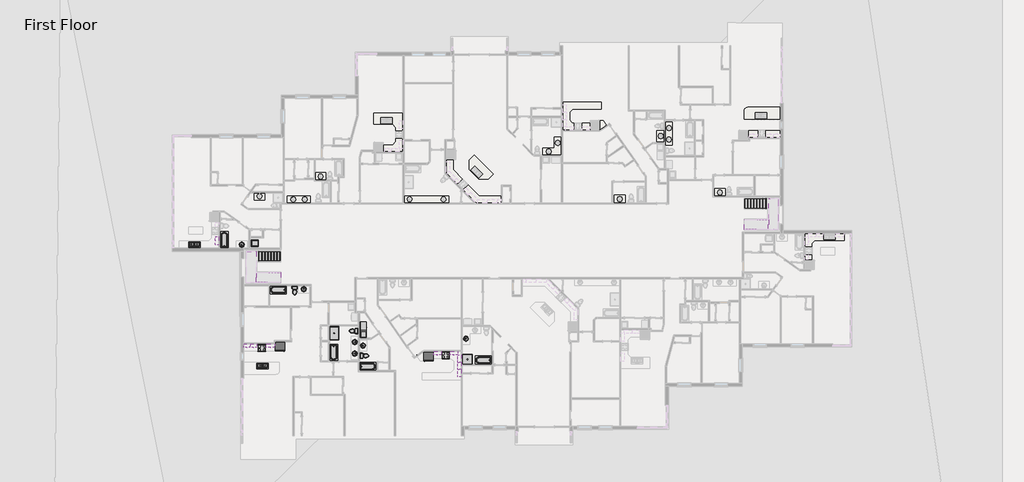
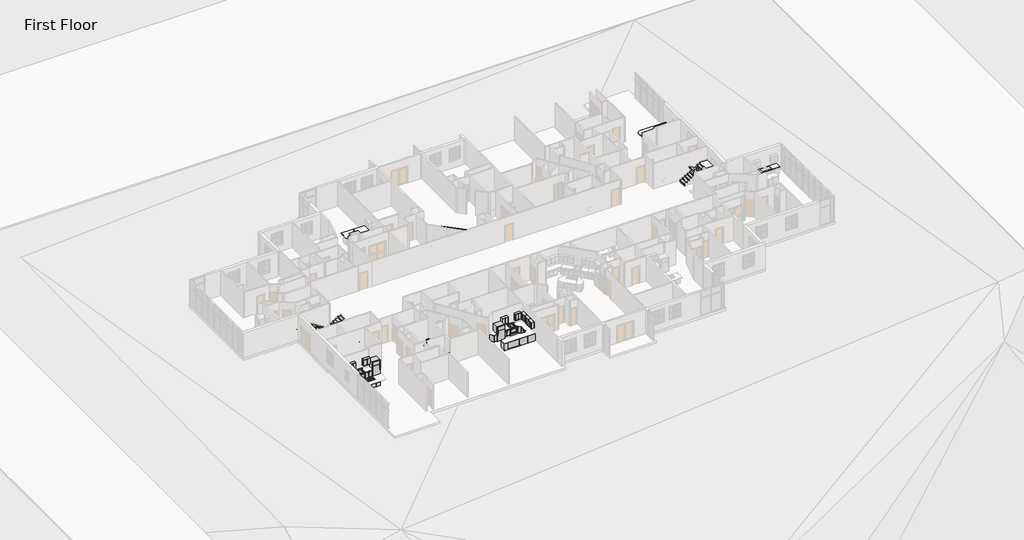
# One storey, part 13 of 17: 42 furniture elements, 20 slabs, 18 flow terminals, 7 proxies, 4 stair flights.
"""IFC4 building model written with IfcOpenShell, lengths in millimetres."""

from ifc_helpers import new_model, si_unit, point, frame, frame_2d, origin, place, context, project, spatial, polyline, circle_curve, trimmed, segment, composite_curve, outline, extrude, transform, mapped, element, save
from components import proxy_6b4a07a9, proxy_fbb4c072, proxy_93150df1, proxy_9109806d, proxy_718fa39f, proxy_f3e01b1d, flow_terminal_54cced83, flow_terminal_5dba0d75, flow_terminal_a53be723, flow_terminal_d49f872f, toilet_domestic_3d_toilet_domestic_3d_f7549cf7, toilet_domestic_3d_toilet_domestic_3d_183bbd19, tub_rectangular_3d_tub_rectangular_3d_72a4d900, tub_rectangular_3d_tub_rectangular_3d_cbc2c449, furniture_0fc2bd2a, furniture_6e8794dd, furniture_07bc9410, furniture_6ace90bf, furniture_338da5bd, furniture_b74d3f52, furniture_7de88fd5, furniture_695a55eb, furniture_b4094f2d, furniture_07c0da44, furniture_bfd559e3, base_cabinet_filler_base_cabinet_filler_dff9ed13, base_cabinet_filler_base_cabinet_filler_01d9e414, base_cabinet_filler_base_cabinet_filler_890d7b95, base_cabinet_filler_base_cabinet_filler_ec835e29, base_cabinet_filler_base_cabinet_filler_783ad0b1, base_cabinet_filler_base_cabinet_filler_ca2a3ea1, furniture_de2c603d, furniture_a8c34398, furniture_09d05a5b, furniture_b1f16c95, furniture_9117db5d, furniture_b34976c1, non_monolithic_landing_e03b7bd7, non_monolithic_landing_4278ca62, stair_flight_912a77d6, stair_flight_db0cfb7a, stair_flight_6cd47184, stair_flight_40993924

model = new_model("IFC4")

# Units and contexts
model_context = context("Model", 3, world=origin())
ifc_project = project(units=[si_unit("LENGTHUNIT", "METRE", prefix="MILLI")], contexts=[model_context])

# Site, building, storey
site = spatial("IfcSite", under=ifc_project)
building = spatial("IfcBuilding", under=site)
storey = spatial("IfcBuildingStorey", under=building, Name="First Floor", Elevation=0.0)

# Proxies
placement = place(None, origin())
proxy_shape = proxy_6b4a07a9(model_context)
element("IfcBuildingElementProxy", 1, Name="Dryer : 30\" x 25\" x 35\"", ObjectType="Dryer : 30\" x 25\" x 35\"", at=placement, inside=storey, context=model_context, shape_type="MappedRepresentation", body=[
    mapped(proxy_shape, transform((18584.1801376, -9524.4003876, 0.0), x_axis=(0.0, 1.0, 0.0), y_axis=(-1.0, 0.0, 0.0), z_axis=(0.0, 0.0, 1.0))),
])
proxy_2_shape = proxy_fbb4c072(model_context)
element("IfcBuildingElementProxy", 2, Name="Range : 30\" x 26\"", ObjectType="Range : 30\" x 26\"", at=placement, inside=storey, context=model_context, shape_type="MappedRepresentation", body=[
    mapped(proxy_2_shape, transform((8484.0058728, -11454.5493344, 0.0), x_axis=(1.0, 0.0, 0.0), y_axis=(0.0, 1.0, 0.0), z_axis=(0.0, 0.0, 1.0))),
])
element("IfcBuildingElementProxy", 3, Name="Range : 30\" x 26\"", ObjectType="Range : 30\" x 26\"", at=placement, inside=storey, context=model_context, shape_type="MappedRepresentation", body=[
    mapped(proxy_2_shape, transform((25568.0760465, -12129.3236347, 0.0), x_axis=(1.0, 0.0, 0.0), y_axis=(0.0, 1.0, 0.0), z_axis=(0.0, 0.0, 1.0))),
])
proxy_3_shape = proxy_93150df1(model_context)
element("IfcBuildingElementProxy", 4, Name="Refrigerator : 35\" x 32\" LH", ObjectType="Refrigerator : 35\" x 32\" LH", at=placement, inside=storey, context=model_context, shape_type="MappedRepresentation", body=[
    mapped(proxy_3_shape, transform((24373.0696169, -11939.5714882, 0.0), x_axis=(1.0, 0.0, 0.0), y_axis=(0.0, 1.0, 0.0), z_axis=(0.0, 0.0, 1.0))),
])
proxy_4_shape = proxy_9109806d(model_context)
element("IfcBuildingElementProxy", 5, Name="Refrigerator : 35\" x 32\" RH", ObjectType="Refrigerator : 35\" x 32\" RH", at=placement, inside=storey, context=model_context, shape_type="MappedRepresentation", body=[
    mapped(proxy_4_shape, transform((10565.2183728, -10998.1775997, 0.0), x_axis=(1.0, 0.0, 0.0), y_axis=(0.0, 1.0, 0.0), z_axis=(0.0, 0.0, 1.0))),
])
proxy_5_shape = proxy_718fa39f(model_context)
element("IfcBuildingElementProxy", 6, Name="Washer : 27\" x 25\" x 35\"", ObjectType="Washer : 27\" x 25\" x 35\"", at=placement, inside=storey, context=model_context, shape_type="MappedRepresentation", body=[
    mapped(proxy_5_shape, transform((18548.6686985, -10291.5635078, 0.0), x_axis=(0.0, 1.0, 0.0), y_axis=(-1.0, 0.0, 0.0), z_axis=(0.0, 0.0, 1.0))),
])
proxy_6_shape = proxy_f3e01b1d(model_context)
element("IfcBuildingElementProxy", 7, Name="Washer_Dryer_Combo : 24\"", ObjectType="Washer_Dryer_Combo : 24\"", at=placement, inside=storey, context=model_context, shape_type="MappedRepresentation", body=[
    mapped(proxy_6_shape, transform((7781.763642, -1399.896226, 0.0), x_axis=(0.0, 1.0, 0.0), y_axis=(-1.0, 0.0, 0.0), z_axis=(0.0, 0.0, 1.0))),
])

# Flow terminals
flow_terminal_shape = flow_terminal_54cced83(model_context)
element("IfcFlowTerminal", 8, ObjectType="Shower Base-3D : 36\" x 36\"", at=placement, inside=storey, context=model_context, shape_type="MappedRepresentation", body=[
    mapped(flow_terminal_shape, transform((27964.2865862, -12199.1736347, 0.0), x_axis=(-1.0, 0.0, 0.0), y_axis=(0.0, -1.0, 0.0), z_axis=(0.0, 0.0, 1.0))),
])
flow_terminal_2_shape = flow_terminal_5dba0d75(model_context)
element("IfcFlowTerminal", 9, ObjectType="Shower Base-3D : 48\" x 34\"", at=placement, inside=storey, context=model_context, shape_type="MappedRepresentation", body=[
    mapped(flow_terminal_2_shape, transform((15583.4691338, -9765.9826248, 0.0), x_axis=(0.0, -1.0, 0.0), y_axis=(1.0, 0.0, 0.0), z_axis=(0.0, 0.0, 1.0))),
])
flow_terminal_3_shape = flow_terminal_a53be723(model_context)
element("IfcFlowTerminal", 10, ObjectType="Sink Kitchen-Double : 42\" x 21\"", at=placement, inside=storey, context=model_context, shape_type="MappedRepresentation", body=[
    mapped(flow_terminal_3_shape, transform((2610.3896329, -1539.4234679, 0.0), x_axis=(-1.0, 0.0, 0.0), y_axis=(0.0, -1.0, 0.0), z_axis=(0.0, 0.0, 1.0))),
])
element("IfcFlowTerminal", 11, ObjectType="Sink Kitchen-Double : 42\" x 21\"", at=placement, inside=storey, context=model_context, shape_type="MappedRepresentation", body=[
    mapped(flow_terminal_3_shape, transform((8952.0802897, -12819.6612346, 0.0), x_axis=(-1.0, 0.0, 0.0), y_axis=(0.0, -1.0, 0.0), z_axis=(0.0, 0.0, 1.0))),
])
flow_terminal_4_shape = flow_terminal_d49f872f(model_context)
element("IfcFlowTerminal", 12, ObjectType="Sink Vanity-Round : 19\" x 19\"", at=placement, inside=storey, context=model_context, shape_type="MappedRepresentation", body=[
    mapped(flow_terminal_4_shape, transform((7095.9779114, -1446.5547276, 0.0), x_axis=(-1.0, 0.0, 0.0), y_axis=(0.0, -1.0, 0.0), z_axis=(0.0, 0.0, 1.0))),
])
element("IfcFlowTerminal", 13, ObjectType="Sink Vanity-Round : 19\" x 19\"", at=placement, inside=storey, context=model_context, shape_type="MappedRepresentation", body=[
    mapped(flow_terminal_4_shape, transform((12671.2282401, -5751.7512482, 0.0), x_axis=(1.0, 0.0, 0.0), y_axis=(0.0, 1.0, 0.0), z_axis=(0.0, 0.0, 1.0))),
])
element("IfcFlowTerminal", 14, ObjectType="Sink Vanity-Round : 19\" x 19\"", at=placement, inside=storey, context=model_context, shape_type="MappedRepresentation", body=[
    mapped(flow_terminal_4_shape, transform((17420.7936513, -10494.2975939, 0.0), x_axis=(0.0, -1.0, 0.0), y_axis=(1.0, 0.0, 0.0), z_axis=(0.0, 0.0, 1.0))),
])
element("IfcFlowTerminal", 15, ObjectType="Sink Vanity-Round : 19\" x 19\"", at=placement, inside=storey, context=model_context, shape_type="MappedRepresentation", body=[
    mapped(flow_terminal_4_shape, transform((17409.016646, -11561.0975939, 0.0), x_axis=(0.0, -1.0, 0.0), y_axis=(1.0, 0.0, 0.0), z_axis=(0.0, 0.0, 1.0))),
])
element("IfcFlowTerminal", 16, ObjectType="Sink Vanity-Round : 19\" x 19\"", at=placement, inside=storey, context=model_context, shape_type="MappedRepresentation", body=[
    mapped(flow_terminal_4_shape, transform((27911.2708925, -10375.2194838, 0.0), x_axis=(0.001247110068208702, 0.9999992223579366, 0.0), y_axis=(-0.9999992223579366, 0.001247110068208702, 0.0), z_axis=(0.0, 0.0, 1.0))),
])
element("IfcFlowTerminal", 17, ObjectType="Sink Vanity-Round : 19\" x 19\"", at=placement, inside=storey, context=model_context, shape_type="MappedRepresentation", body=[
    mapped(flow_terminal_4_shape, transform((18352.0332752, -11016.4921873, 0.0), x_axis=(0.0, 1.0, 0.0), y_axis=(-1.0, 0.0, 0.0), z_axis=(0.0, 0.0, 1.0))),
])
toilet_domestic_3d_toilet_domestic_3d_shape = toilet_domestic_3d_toilet_domestic_3d_f7549cf7(model_context)
toilet_domestic_3d_toilet_domestic_3d_2_shape = toilet_domestic_3d_toilet_domestic_3d_183bbd19(model_context)
element("IfcFlowTerminal", 18, ObjectType="Toilet-Domestic-3D : Toilet-Domestic-3D", at=placement, inside=storey, context=model_context, shape_type="MappedRepresentation", body=[
    mapped(toilet_domestic_3d_toilet_domestic_3d_shape, transform((11916.3561509, -5905.1826248, 0.0), x_axis=(1.0, 0.0, 0.0), y_axis=(0.0, 1.0, 0.0), z_axis=(0.0, 0.0, 1.0))),
    mapped(toilet_domestic_3d_toilet_domestic_3d_2_shape, transform((11916.3561509, -5905.1826248, 0.0), x_axis=(1.0, 0.0, 0.0), y_axis=(0.0, 1.0, 0.0), z_axis=(0.0, 0.0, 1.0))),
])
element("IfcFlowTerminal", 19, ObjectType="Toilet-Domestic-3D : Toilet-Domestic-3D", at=placement, inside=storey, context=model_context, shape_type="MappedRepresentation", body=[
    mapped(toilet_domestic_3d_toilet_domestic_3d_shape, transform((17301.7543863, -9562.7826248, 0.0), x_axis=(0.0, -1.0, 0.0), y_axis=(1.0, 0.0, 0.0), z_axis=(0.0, 0.0, 1.0))),
    mapped(toilet_domestic_3d_toilet_domestic_3d_2_shape, transform((17301.7543863, -9562.7826248, 0.0), x_axis=(0.0, -1.0, 0.0), y_axis=(1.0, 0.0, 0.0), z_axis=(0.0, 0.0, 1.0))),
])
element("IfcFlowTerminal", 20, ObjectType="Toilet-Domestic-3D : Toilet-Domestic-3D", at=placement, inside=storey, context=model_context, shape_type="MappedRepresentation", body=[
    mapped(toilet_domestic_3d_toilet_domestic_3d_shape, transform((18495.5543863, -11861.2719726, 0.0), x_axis=(0.0, 1.0, 0.0), y_axis=(-1.0, 0.0, 0.0), z_axis=(0.0, 0.0, 1.0))),
    mapped(toilet_domestic_3d_toilet_domestic_3d_2_shape, transform((18495.5543863, -11861.2719726, 0.0), x_axis=(0.0, 1.0, 0.0), y_axis=(-1.0, 0.0, 0.0), z_axis=(0.0, 0.0, 1.0))),
])
tub_rectangular_3d_tub_rectangular_3d_shape = tub_rectangular_3d_tub_rectangular_3d_72a4d900(model_context)
element("IfcFlowTerminal", 21, ObjectType="Tub-Rectangular-3D : Tub-Rectangular-3D", at=placement, inside=storey, context=model_context, shape_type="MappedRepresentation", body=[
    mapped(tub_rectangular_3d_tub_rectangular_3d_shape, transform((19051.8674743, -13293.3204597, 0.0), x_axis=(1.0, 0.0, 0.0), y_axis=(0.0, 1.0, 0.0), z_axis=(0.0, 0.0, 1.0))),
])
element("IfcFlowTerminal", 22, ObjectType="Tub-Rectangular-3D : Tub-Rectangular-3D", at=placement, inside=storey, context=model_context, shape_type="MappedRepresentation", body=[
    mapped(tub_rectangular_3d_tub_rectangular_3d_shape, transform((15100.67709, -11904.7523031, 0.0), x_axis=(0.0, -1.0, 0.0), y_axis=(1.0, 0.0, 0.0), z_axis=(0.0, 0.0, 1.0))),
])
element("IfcFlowTerminal", 23, ObjectType="Tub-Rectangular-3D : Tub-Rectangular-3D", at=placement, inside=storey, context=model_context, shape_type="MappedRepresentation", body=[
    mapped(tub_rectangular_3d_tub_rectangular_3d_shape, transform((10041.086734, -5294.5871067, 0.0), x_axis=(-1.0, 0.0, 0.0), y_axis=(0.0, -1.0, 0.0), z_axis=(0.0, 0.0, 1.0))),
])
tub_rectangular_3d_tub_rectangular_3d_2_shape = tub_rectangular_3d_tub_rectangular_3d_cbc2c449(model_context)
element("IfcFlowTerminal", 24, ObjectType="Tub-Rectangular-3D : Tub-Rectangular-3D", at=placement, inside=storey, context=model_context, shape_type="MappedRepresentation", body=[
    mapped(tub_rectangular_3d_tub_rectangular_3d_2_shape, transform((4937.8503923, -742.3159003, 0.0), x_axis=(0.0, 1.0, 0.0), y_axis=(-1.0, 0.0, 0.0), z_axis=(0.0, 0.0, 1.0))),
])
element("IfcFlowTerminal", 25, ObjectType="Tub-Rectangular-3D : Tub-Rectangular-3D", at=placement, inside=storey, context=model_context, shape_type="MappedRepresentation", body=[
    mapped(tub_rectangular_3d_tub_rectangular_3d_2_shape, transform((29107.1010669, -12707.1736347, 0.0), x_axis=(-1.0, 0.0, 0.0), y_axis=(0.0, -1.0, 0.0), z_axis=(0.0, 0.0, 1.0))),
])

# Furniture
furniture_shape = furniture_0fc2bd2a(model_context)
element("IfcFurniture", 26, ObjectType="Base Cabinet-Single Door & Drawer : 15\"'", at=placement, inside=storey, context=model_context, shape_type="MappedRepresentation", body=[
    mapped(furniture_shape, transform((7393.028754, -13101.4066357, 0.0), x_axis=(-1.0, 0.0, 0.0), y_axis=(0.0, -1.0, 0.0), z_axis=(0.0, 0.0, 1.0))),
])
furniture_2_shape = furniture_6e8794dd(model_context)
element("IfcFurniture", 27, ObjectType="Base Cabinet-Single Door & Drawer : 12\"", at=placement, inside=storey, context=model_context, shape_type="MappedRepresentation", body=[
    mapped(furniture_2_shape, transform((4880.7003923, -765.2085211, 0.0), x_axis=(0.0, -1.0, 0.0), y_axis=(1.0, 0.0, 0.0), z_axis=(0.0, 0.0, 1.0))),
])
furniture_3_shape = furniture_07bc9410(model_context)
element("IfcFurniture", 28, ObjectType="Base Cabinet-Single Door & Drawer : 18\"", at=placement, inside=storey, context=model_context, shape_type="MappedRepresentation", body=[
    mapped(furniture_3_shape, transform((7423.2435778, -10772.1368662, 0.0), x_axis=(-1.0, 0.0, 0.0), y_axis=(0.0, -1.0, 0.0), z_axis=(0.0, 0.0, 1.0))),
])
furniture_4_shape = furniture_6ace90bf(model_context)
element("IfcFurniture", 29, ObjectType="Base Cabinet-Single Door & Drawer : 18\"", at=placement, inside=storey, context=model_context, shape_type="MappedRepresentation", body=[
    mapped(furniture_4_shape, transform((9793.328754, -13101.4066357, 0.0), x_axis=(-1.0, 0.0, 0.0), y_axis=(0.0, -1.0, 0.0), z_axis=(0.0, 0.0, 1.0))),
])
element("IfcFurniture", 30, ObjectType="Base Cabinet-Single Door & Drawer : 18\"", at=placement, inside=storey, context=model_context, shape_type="MappedRepresentation", body=[
    mapped(furniture_4_shape, transform((24038.1263728, -14082.7941728, 0.0), x_axis=(-1.0, 0.0, 0.0), y_axis=(0.0, -1.0, 0.0), z_axis=(0.0, 0.0, 1.0))),
])
furniture_5_shape = furniture_338da5bd(model_context)
element("IfcFurniture", 31, ObjectType="Base Cabinet-Double Door & 2 Drawer : 30\"", at=placement, inside=storey, context=model_context, shape_type="MappedRepresentation", body=[
    mapped(furniture_5_shape, transform((7964.528754, -13101.4066357, 0.0), x_axis=(-1.0, 0.0, 0.0), y_axis=(0.0, -1.0, 0.0), z_axis=(0.0, 0.0, 1.0))),
])
element("IfcFurniture", 32, ObjectType="Base Cabinet-Double Door & 2 Drawer : 30\"", at=placement, inside=storey, context=model_context, shape_type="MappedRepresentation", body=[
    mapped(furniture_5_shape, transform((27373.7365862, -12755.9564679, 0.0), x_axis=(0.0, -1.0, 0.0), y_axis=(1.0, 0.0, 0.0), z_axis=(0.0, 0.0, 1.0))),
])
element("IfcFurniture", 33, ObjectType="Base Cabinet-Double Door & 2 Drawer : 30\"", at=placement, inside=storey, context=model_context, shape_type="MappedRepresentation", body=[
    mapped(furniture_5_shape, transform((25173.481912, -11468.9236347, 0.0), x_axis=(1.0, 0.0, 0.0), y_axis=(0.0, 1.0, 0.0), z_axis=(0.0, 0.0, 1.0))),
])
furniture_6_shape = furniture_b74d3f52(model_context)
element("IfcFurniture", 34, ObjectType="Base Cabinet-Double Door & 2 Drawer : 33\"", at=placement, inside=storey, context=model_context, shape_type="MappedRepresentation", body=[
    mapped(furniture_6_shape, transform((8083.6435778, -10772.1368662, 0.0), x_axis=(-1.0, 0.0, 0.0), y_axis=(0.0, -1.0, 0.0), z_axis=(0.0, 0.0, 1.0))),
])
furniture_7_shape = furniture_7de88fd5(model_context)
element("IfcFurniture", 35, ObjectType="Base Cabinet-Double Door & 2 Drawer : 33\"", at=placement, inside=storey, context=model_context, shape_type="MappedRepresentation", body=[
    mapped(furniture_7_shape, transform((9646.3681679, -10772.1368662, 0.0), x_axis=(1.0, 0.0, 0.0), y_axis=(0.0, 1.0, 0.0), z_axis=(0.0, 0.0, 1.0))),
])
furniture_8_shape = furniture_695a55eb(model_context)
element("IfcFurniture", 36, ObjectType="Base Cabinet-Double Door & 2 Drawer : 36\"", at=placement, inside=storey, context=model_context, shape_type="MappedRepresentation", body=[
    mapped(furniture_8_shape, transform((1661.5626874, -1846.568869, 0.0), x_axis=(1.0, 0.0, 0.0), y_axis=(0.0, 1.0, 0.0), z_axis=(0.0, 0.0, 1.0))),
])
element("IfcFurniture", 37, ObjectType="Base Cabinet-Double Door & 2 Drawer : 36\"", at=placement, inside=storey, context=model_context, shape_type="MappedRepresentation", body=[
    mapped(furniture_8_shape, transform((2575.9626874, -1846.568869, 0.0), x_axis=(1.0, 0.0, 0.0), y_axis=(0.0, 1.0, 0.0), z_axis=(0.0, 0.0, 1.0))),
])
element("IfcFurniture", 38, ObjectType="Base Cabinet-Double Door & 2 Drawer : 36\"", at=placement, inside=storey, context=model_context, shape_type="MappedRepresentation", body=[
    mapped(furniture_8_shape, transform((3490.3626874, -1846.568869, 0.0), x_axis=(1.0, 0.0, 0.0), y_axis=(0.0, 1.0, 0.0), z_axis=(0.0, 0.0, 1.0))),
])
furniture_9_shape = furniture_b4094f2d(model_context)
element("IfcFurniture", 39, ObjectType="Base Cabinet-Double Door & 2 Drawer : 39\"", at=placement, inside=storey, context=model_context, shape_type="MappedRepresentation", body=[
    mapped(furniture_9_shape, transform((25982.7742911, -14082.7941728, 0.0), x_axis=(-1.0, 0.0, 0.0), y_axis=(0.0, -1.0, 0.0), z_axis=(0.0, 0.0, 1.0))),
])
furniture_10_shape = furniture_07c0da44(model_context)
element("IfcFurniture", 40, ObjectType="Base Cabinet-Double Door & 2 Drawer : 48\"", at=placement, inside=storey, context=model_context, shape_type="MappedRepresentation", body=[
    mapped(furniture_10_shape, transform((8955.128754, -13101.4066357, 0.0), x_axis=(-1.0, 0.0, 0.0), y_axis=(0.0, -1.0, 0.0), z_axis=(0.0, 0.0, 1.0))),
])
element("IfcFurniture", 41, ObjectType="Base Cabinet-Double Door & 2 Drawer : 48\"", at=placement, inside=storey, context=model_context, shape_type="MappedRepresentation", body=[
    mapped(furniture_10_shape, transform((24876.3263728, -14082.7941728, 0.0), x_axis=(-1.0, 0.0, 0.0), y_axis=(0.0, -1.0, 0.0), z_axis=(0.0, 0.0, 1.0))),
])
furniture_11_shape = furniture_bfd559e3(model_context)
element("IfcFurniture", 42, ObjectType="Base Cabinet-Corner Unit-Angled : 36\"", at=placement, inside=storey, context=model_context, shape_type="MappedRepresentation", body=[
    mapped(furniture_11_shape, transform((4880.7003923, -1319.8311641, 0.0), x_axis=(0.0, -1.0, 0.0), y_axis=(1.0, 0.0, 0.0), z_axis=(0.0, 0.0, 1.0))),
])
element("IfcFurniture", 43, ObjectType="Base Cabinet-Corner Unit-Angled : 36\"", at=placement, inside=storey, context=model_context, shape_type="MappedRepresentation", body=[
    mapped(furniture_11_shape, transform((27373.7365862, -13556.0564679, 0.0), x_axis=(0.0, -1.0, 0.0), y_axis=(1.0, 0.0, 0.0), z_axis=(0.0, 0.0, 1.0))),
])
element("IfcFurniture", 44, ObjectType="Base Cabinet-Corner Unit-Angled : 36\"", at=placement, inside=storey, context=model_context, shape_type="MappedRepresentation", body=[
    mapped(furniture_11_shape, transform((26846.9988812, -11468.9236347, 0.0), x_axis=(1.0, 0.0, 0.0), y_axis=(0.0, 1.0, 0.0), z_axis=(0.0, 0.0, 1.0))),
])
base_cabinet_filler_base_cabinet_filler_shape = base_cabinet_filler_base_cabinet_filler_dff9ed13(model_context)
element("IfcFurniture", 45, ObjectType="Base Cabinet-Filler : Base Cabinet-Filler", at=placement, inside=storey, context=model_context, shape_type="MappedRepresentation", body=[
    mapped(base_cabinet_filler_base_cabinet_filler_shape, transform((7620.7181679, -10772.1368662, 0.0), x_axis=(1.0, 0.0, 0.0), y_axis=(0.0, 1.0, 0.0), z_axis=(0.0, 0.0, 1.0))),
])
element("IfcFurniture", 46, ObjectType="Base Cabinet-Filler : Base Cabinet-Filler", at=placement, inside=storey, context=model_context, shape_type="MappedRepresentation", body=[
    mapped(base_cabinet_filler_base_cabinet_filler_shape, transform((27373.7365862, -13143.3064679, 0.0), x_axis=(0.0, -1.0, 0.0), y_axis=(1.0, 0.0, 0.0), z_axis=(0.0, 0.0, 1.0))),
])
base_cabinet_filler_base_cabinet_filler_2_shape = base_cabinet_filler_base_cabinet_filler_01d9e414(model_context)
element("IfcFurniture", 47, ObjectType="Base Cabinet-Filler : Base Cabinet-Filler", at=placement, inside=storey, context=model_context, shape_type="MappedRepresentation", body=[
    mapped(base_cabinet_filler_base_cabinet_filler_2_shape, transform((10086.8994179, -10772.1368662, 0.0), x_axis=(1.0, 0.0, 0.0), y_axis=(0.0, 1.0, 0.0), z_axis=(0.0, 0.0, 1.0))),
])
base_cabinet_filler_base_cabinet_filler_3_shape = base_cabinet_filler_base_cabinet_filler_890d7b95(model_context)
element("IfcFurniture", 48, ObjectType="Base Cabinet-Filler : Base Cabinet-Filler", at=placement, inside=storey, context=model_context, shape_type="MappedRepresentation", body=[
    mapped(base_cabinet_filler_base_cabinet_filler_3_shape, transform((26375.9686114, -11468.9236347, 0.0), x_axis=(1.0, 0.0, 0.0), y_axis=(0.0, 1.0, 0.0), z_axis=(0.0, 0.0, 1.0))),
])
base_cabinet_filler_base_cabinet_filler_4_shape = base_cabinet_filler_base_cabinet_filler_ec835e29(model_context)
element("IfcFurniture", 49, ObjectType="Base Cabinet-Filler : Base Cabinet-Filler", at=placement, inside=storey, context=model_context, shape_type="MappedRepresentation", body=[
    mapped(base_cabinet_filler_base_cabinet_filler_4_shape, transform((27373.7365862, -12369.7711988, 0.0), x_axis=(0.0, -1.0, 0.0), y_axis=(1.0, 0.0, 0.0), z_axis=(0.0, 0.0, 1.0))),
])
base_cabinet_filler_base_cabinet_filler_5_shape = base_cabinet_filler_base_cabinet_filler_783ad0b1(model_context)
element("IfcFurniture", 50, ObjectType="Base Cabinet-Filler : Base Cabinet-Filler", at=placement, inside=storey, context=model_context, shape_type="MappedRepresentation", body=[
    mapped(base_cabinet_filler_base_cabinet_filler_5_shape, transform((23755.8937619, -11708.3436972, 0.0), x_axis=(1.0, 0.0, 0.0), y_axis=(0.0, 1.0, 0.0), z_axis=(0.0, 0.0, 1.0))),
])
base_cabinet_filler_base_cabinet_filler_6_shape = base_cabinet_filler_base_cabinet_filler_ca2a3ea1(model_context)
element("IfcFurniture", 51, ObjectType="Base Cabinet-Filler : Base Cabinet-Filler", at=placement, inside=storey, context=model_context, shape_type="MappedRepresentation", body=[
    mapped(base_cabinet_filler_base_cabinet_filler_6_shape, transform((23926.7430816, -11693.9911948, 0.0), x_axis=(0.5735764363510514, -0.8191520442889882, 0.0), y_axis=(0.8191520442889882, 0.5735764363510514, 0.0), z_axis=(0.0, 0.0, 1.0))),
])
furniture_12_shape = furniture_de2c603d(model_context)
element("IfcFurniture", 52, ObjectType="Upper Cabinet-Double Door-Wall : 24\"", at=placement, inside=storey, context=model_context, shape_type="MappedRepresentation", body=[
    mapped(furniture_12_shape, transform((7516.0292787, -10717.9493344, 0.0), x_axis=(-1.0, 0.0, 0.0), y_axis=(0.0, -1.0, 0.0), z_axis=(0.0, 0.0, 1.0))),
])
element("IfcFurniture", 53, ObjectType="Upper Cabinet-Double Door-Wall : 24\"", at=placement, inside=storey, context=model_context, shape_type="MappedRepresentation", body=[
    mapped(furniture_12_shape, transform((8125.6292787, -10717.9493344, 0.0), x_axis=(-1.0, 0.0, 0.0), y_axis=(0.0, -1.0, 0.0), z_axis=(0.0, 0.0, 1.0))),
])
furniture_13_shape = furniture_a8c34398(model_context)
element("IfcFurniture", 54, ObjectType="Upper Cabinet-Double Door-Wall : 27\"", at=placement, inside=storey, context=model_context, shape_type="MappedRepresentation", body=[
    mapped(furniture_13_shape, transform((25225.457749, -11411.7736347, 0.0), x_axis=(-1.0, 0.0, 0.0), y_axis=(0.0, -1.0, 0.0), z_axis=(0.0, 0.0, 1.0))),
])
element("IfcFurniture", 55, ObjectType="Upper Cabinet-Double Door-Wall : 27\"", at=placement, inside=storey, context=model_context, shape_type="MappedRepresentation", body=[
    mapped(furniture_13_shape, transform((26755.807749, -11411.7736347, 0.0), x_axis=(-1.0, 0.0, 0.0), y_axis=(0.0, -1.0, 0.0), z_axis=(0.0, 0.0, 1.0))),
])
element("IfcFurniture", 56, ObjectType="Upper Cabinet-Double Door-Wall : 27\"", at=placement, inside=storey, context=model_context, shape_type="MappedRepresentation", body=[
    mapped(furniture_13_shape, transform((27430.8865862, -12146.3947975, 0.0), x_axis=(0.0, 1.0, 0.0), y_axis=(-1.0, 0.0, 0.0), z_axis=(0.0, 0.0, 1.0))),
])
element("IfcFurniture", 57, ObjectType="Upper Cabinet-Double Door-Wall : 27\"", at=placement, inside=storey, context=model_context, shape_type="MappedRepresentation", body=[
    mapped(furniture_13_shape, transform((27430.8865862, -12832.1947975, 0.0), x_axis=(0.0, 1.0, 0.0), y_axis=(-1.0, 0.0, 0.0), z_axis=(0.0, 0.0, 1.0))),
])
furniture_14_shape = furniture_09d05a5b(model_context)
element("IfcFurniture", 58, ObjectType="Upper Cabinet-Double Door-Wall : 27\"", at=placement, inside=storey, context=model_context, shape_type="MappedRepresentation", body=[
    mapped(furniture_14_shape, transform((27430.8865862, -13458.4524719, 0.0), x_axis=(0.0, -1.0, 0.0), y_axis=(1.0, 0.0, 0.0), z_axis=(0.0, 0.0, 1.0))),
])
furniture_15_shape = furniture_b1f16c95(model_context)
element("IfcFurniture", 59, ObjectType="Upper Cabinet-Double Door-Wall : 30\"", at=placement, inside=storey, context=model_context, shape_type="MappedRepresentation", body=[
    mapped(furniture_15_shape, transform((4937.8503923, -1190.5400318, 0.0), x_axis=(0.0, 1.0, 0.0), y_axis=(-1.0, 0.0, 0.0), z_axis=(0.0, 0.0, 1.0))),
])
element("IfcFurniture", 60, ObjectType="Upper Cabinet-Double Door-Wall : 30\"", at=placement, inside=storey, context=model_context, shape_type="MappedRepresentation", body=[
    mapped(furniture_15_shape, transform((9707.5770356, -10717.9493344, 0.0), x_axis=(-1.0, 0.0, 0.0), y_axis=(0.0, -1.0, 0.0), z_axis=(0.0, 0.0, 1.0))),
])
furniture_16_shape = furniture_9117db5d(model_context)
element("IfcFurniture", 61, ObjectType="Vanity Cabinet-Double Door Sink Unit : 39\"", at=placement, inside=storey, context=model_context, shape_type="MappedRepresentation", body=[
    mapped(furniture_16_shape, transform((7018.0638758, -1846.568869, 0.0), x_axis=(-1.0, 0.0, 0.0), y_axis=(0.0, -1.0, 0.0), z_axis=(0.0, 0.0, 1.0))),
])
element("IfcFurniture", 62, ObjectType="Vanity Cabinet-Double Door Sink Unit : 39\"", at=placement, inside=storey, context=model_context, shape_type="MappedRepresentation", body=[
    mapped(furniture_16_shape, transform((12749.1422757, -5351.7371067, 0.0), x_axis=(1.0, 0.0, 0.0), y_axis=(0.0, 1.0, 0.0), z_axis=(0.0, 0.0, 1.0))),
])
element("IfcFurniture", 63, ObjectType="Vanity Cabinet-Double Door Sink Unit : 39\"", at=placement, inside=storey, context=model_context, shape_type="MappedRepresentation", body=[
    mapped(furniture_16_shape, transform((17952.0191338, -10938.5781517, 0.0), x_axis=(0.0, 1.0, 0.0), y_axis=(-1.0, 0.0, 0.0), z_axis=(0.0, 0.0, 1.0))),
])
furniture_17_shape = furniture_b34976c1(model_context)
element("IfcFurniture", 64, ObjectType="Vanity Cabinet-Double Door Sink Unit : 42\"", at=placement, inside=storey, context=model_context, shape_type="MappedRepresentation", body=[
    mapped(furniture_17_shape, transform((17818.6691338, -11639.0116295, 0.0), x_axis=(0.0, -1.0, 0.0), y_axis=(1.0, 0.0, 0.0), z_axis=(0.0, 0.0, 1.0))),
])
element("IfcFurniture", 65, ObjectType="Vanity Cabinet-Double Door Sink Unit : 42\"", at=placement, inside=storey, context=model_context, shape_type="MappedRepresentation", body=[
    mapped(furniture_17_shape, transform((17818.6691338, -10572.2116295, 0.0), x_axis=(0.0, -1.0, 0.0), y_axis=(1.0, 0.0, 0.0), z_axis=(0.0, 0.0, 1.0))),
])
element("IfcFurniture", 66, ObjectType="Vanity Cabinet-Double Door Sink Unit : 42\"", at=placement, inside=storey, context=model_context, shape_type="MappedRepresentation", body=[
    mapped(furniture_17_shape, transform((28649.2008168, -9152.0789569, 0.0), x_axis=(0.9999968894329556, -0.0024942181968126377, 0.0), y_axis=(0.0024942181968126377, 0.9999968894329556, 0.0), z_axis=(0.0, 0.0, 1.0))),
])
element("IfcFurniture", 67, ObjectType="Vanity Cabinet-Double Door Sink Unit : 42\"", at=placement, inside=storey, context=model_context, shape_type="MappedRepresentation", body=[
    mapped(furniture_17_shape, transform((27513.4928868, -10296.8093142, 0.0), x_axis=(0.0012471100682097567, 0.9999992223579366, 0.0), y_axis=(-0.9999992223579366, 0.0012471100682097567, 0.0), z_axis=(0.0, 0.0, 1.0))),
])

# Slabs
element("IfcSlab", 68, ObjectType="Marble", at=placement, inside=storey, context=model_context, shape_type="SweptSolid", body=[
    extrude(outline(composite_curve([segment(polyline([(57019.8087704, 10137.3521517), (53701.5482574, 10137.3521517), (53701.5482574, 10955.8982425)]), True, "CONTINUOUS"), segment(trimmed(circle_curve(frame_2d((54006.3482574, 10955.8982425)), 304.8), [point((53701.5482574, 10955.8982425))], [point((54010.0389834, 11260.6758968))], False, "CARTESIAN"), True, "CONTINUOUS"), segment(polyline([(54010.0389834, 11260.6758968), (57019.8087704, 11260.6758968), (57019.8087704, 10137.3521517)]), True, "CONTINUOUS")], self_intersect=False), holes=[polyline([(54720.3633372, 10733.4565303), (54720.3633372, 10206.1240109), (55788.1332258, 10206.1240109), (55788.1332258, 10733.4565303), (54720.3633372, 10733.4565303)])]), frame((0.0, 0.0, 876.3), z_axis=(0.0, 0.0, 1.0), x_axis=(1.0, 0.0, 0.0)), (0.0, 0.0, 1.0), 38.1),
])
element("IfcSlab", 69, ObjectType="Marble", at=placement, inside=storey, context=model_context, shape_type="SweptSolid", body=[
    extrude(outline(polyline([(54063.0860135, 9070.6542414), (54944.1485135, 9070.6542414), (54944.1485135, 8444.9667096), (54063.0860135, 8444.9667096), (54063.0860135, 9070.6542414)])), frame((0.0, 0.0, 876.3), z_axis=(0.0, 0.0, 1.0), x_axis=(1.0, 0.0, 0.0)), (0.0, 0.0, 1.0), 38.1),
    extrude(outline(polyline([(55706.1485135, 9070.6542414), (57014.2485135, 9070.6542414), (57014.2485135, 8422.9542414), (55706.1485135, 8422.9542414), (55706.1485135, 9070.6542414)])), frame((0.0, 0.0, 876.3), z_axis=(0.0, 0.0, 1.0), x_axis=(1.0, 0.0, 0.0)), (0.0, 0.0, 1.0), 38.1),
])
element("IfcSlab", 70, ObjectType="Marble", at=placement, inside=storey, context=model_context, shape_type="SweptSolid", body=[
    extrude(outline(polyline([(50926.9744057, 3675.6544819), (51917.5744057, 3675.6544819), (51917.5744057, 3021.6044819), (50926.9744057, 3021.6044819), (50926.9744057, 3675.6544819)]), holes=[composite_curve([segment(trimmed(circle_curve(frame_2d((51422.2744057, 3320.0544819)), 203.2), [point((51219.0744057, 3320.0544819))], [point((51625.4744057, 3320.0544819))], True, "CARTESIAN"), True, "CONTINUOUS"), segment(trimmed(circle_curve(frame_2d((51422.2744057, 3320.0544819)), 203.2), [point((51625.4744057, 3320.0544819))], [point((51219.0744057, 3320.0544819))], True, "CARTESIAN"), True, "CONTINUOUS")], self_intersect=False)]), frame((0.0, 0.0, 736.6), z_axis=(0.0, 0.0, 1.0), x_axis=(1.0, 0.0, 0.0)), (0.0, 0.0, 1.0), 38.1),
])
element("IfcSlab", 71, ObjectType="Marble", at=placement, inside=storey, context=model_context, shape_type="SweptSolid", body=[
    extrude(outline(polyline([(47019.1852525, 9841.9667096), (47019.1852525, 7708.3667096), (46371.4852525, 7708.3667096), (46371.4852525, 9841.9667096), (47019.1852525, 9841.9667096)]), holes=[composite_curve([segment(trimmed(circle_curve(frame_2d((46688.9852525, 8241.7667096)), 203.2), [point((46485.7852525, 8241.7667096))], [point((46892.1852525, 8241.7667096))], True, "CARTESIAN"), True, "CONTINUOUS"), segment(trimmed(circle_curve(frame_2d((46688.9852525, 8241.7667096)), 203.2), [point((46892.1852525, 8241.7667096))], [point((46485.7852525, 8241.7667096))], True, "CARTESIAN"), True, "CONTINUOUS")], self_intersect=False), composite_curve([segment(trimmed(circle_curve(frame_2d((46688.9852525, 9308.5667096)), 203.2), [point((46485.7852525, 9308.5667096))], [point((46892.1852525, 9308.5667096))], True, "CARTESIAN"), True, "CONTINUOUS"), segment(trimmed(circle_curve(frame_2d((46688.9852525, 9308.5667096)), 203.2), [point((46892.1852525, 9308.5667096))], [point((46485.7852525, 9308.5667096))], True, "CARTESIAN"), True, "CONTINUOUS")], self_intersect=False)]), frame((0.0, 0.0, 736.6), z_axis=(0.0, 0.0, 1.0), x_axis=(1.0, 0.0, 0.0)), (0.0, 0.0, 1.0), 38.1),
])
element("IfcSlab", 72, ObjectType="Marble", at=placement, inside=storey, context=model_context, shape_type="SweptSolid", body=[
    extrude(outline(polyline([(37464.1178001, 10049.9225466), (37730.8178001, 9783.2225466), (37857.8178001, 9783.2225466), (37857.8178001, 9119.7410099), (36816.4178001, 9119.7410099), (36816.4178001, 11733.611548), (40399.3657184, 11733.611548), (40399.3657184, 11085.911548), (37746.5993369, 11085.911548), (37464.1178001, 10803.4300112), (37464.1178001, 10049.9225466)])), frame((0.0, 0.0, 876.3), z_axis=(0.0, 0.0, 1.0), x_axis=(1.0, 0.0, 0.0)), (0.0, 0.0, 1.0), 38.1),
    extrude(outline(polyline([(39378.9347694, 9767.4410099), (39378.9347694, 9119.7410099), (38616.9347694, 9119.7410099), (38616.9347694, 9767.4410099), (39378.9347694, 9767.4410099)])), frame((0.0, 0.0, 876.3), z_axis=(0.0, 0.0, 1.0), x_axis=(1.0, 0.0, 0.0)), (0.0, 0.0, 1.0), 38.1),
])
element("IfcSlab", 73, ObjectType="Marble", at=placement, inside=storey, context=model_context, shape_type="SweptSolid", body=[
    extrude(outline(polyline([(41626.0511183, 3064.2091714), (42616.6511183, 3064.2091714), (42616.6511183, 2391.1091714), (41626.0511183, 2391.1091714), (41626.0511183, 3064.2091714)]), holes=[composite_curve([segment(trimmed(circle_curve(frame_2d((42121.3511183, 2708.6091714)), 203.2), [point((41918.1511183, 2708.6091714))], [point((42324.5511183, 2708.6091714))], True, "CARTESIAN"), True, "CONTINUOUS"), segment(trimmed(circle_curve(frame_2d((42121.3511183, 2708.6091714)), 203.2), [point((42324.5511183, 2708.6091714))], [point((41918.1511183, 2708.6091714))], True, "CARTESIAN"), True, "CONTINUOUS")], self_intersect=False)]), frame((0.0, 0.0, 736.6), z_axis=(0.0, 0.0, 1.0), x_axis=(1.0, 0.0, 0.0)), (0.0, 0.0, 1.0), 38.1),
])
element("IfcSlab", 74, ObjectType="Marble", at=placement, inside=storey, context=model_context, shape_type="SweptSolid", body=[
    extrude(outline(polyline([(34989.4572348, 6808.2918202), (34989.4572348, 7449.6418202), (36024.5072348, 7449.6418202), (36024.5072348, 8459.2918202), (36704.1794441, 8459.2918202), (36702.1178001, 6806.1559423), (34989.4572348, 6808.2918202)]), holes=[composite_curve([segment(trimmed(circle_curve(frame_2d((35526.0206512, 7126.8943672)), 203.2), [point((35729.2204932, 7126.6409544))], [point((35322.8208092, 7127.14778))], True, "CARTESIAN"), True, "CONTINUOUS"), segment(trimmed(circle_curve(frame_2d((35526.0206512, 7126.8943672)), 203.2), [point((35322.8208092, 7127.14778))], [point((35729.2204932, 7126.6409544))], True, "CARTESIAN"), True, "CONTINUOUS")], self_intersect=False), composite_curve([segment(trimmed(circle_curve(frame_2d((36367.6300654, 7922.506761)), 203.2), [point((36570.8299073, 7922.2533482))], [point((36164.4302234, 7922.7601737))], True, "CARTESIAN"), True, "CONTINUOUS"), segment(trimmed(circle_curve(frame_2d((36367.6300654, 7922.506761)), 203.2), [point((36164.4302234, 7922.7601737))], [point((36570.8299073, 7922.2533482))], True, "CARTESIAN"), True, "CONTINUOUS")], self_intersect=False)]), frame((0.0, 0.0, 736.6), z_axis=(0.0, 0.0, 1.0), x_axis=(1.0, 0.0, 0.0)), (0.0, 0.0, 1.0), 38.1),
])
element("IfcSlab", 75, ObjectType="Marble", at=placement, inside=storey, context=model_context, shape_type="SweptSolid", body=[
    extrude(outline(polyline([(13837.7035557, 5166.0591714), (14828.3035557, 5166.0591714), (14828.3035557, 4492.9591714), (13837.7035557, 4492.9591714), (13837.7035557, 5166.0591714)]), holes=[composite_curve([segment(trimmed(circle_curve(frame_2d((14333.0035557, 4810.4591714)), 203.2), [point((14129.8035557, 4810.4591714))], [point((14536.2035557, 4810.4591714))], True, "CARTESIAN"), True, "CONTINUOUS"), segment(trimmed(circle_curve(frame_2d((14333.0035557, 4810.4591714)), 203.2), [point((14536.2035557, 4810.4591714))], [point((14129.8035557, 4810.4591714))], True, "CARTESIAN"), True, "CONTINUOUS")], self_intersect=False)]), frame((0.0, 0.0, 736.6), z_axis=(0.0, 0.0, 1.0), x_axis=(1.0, 0.0, 0.0)), (0.0, 0.0, 1.0), 38.1),
])
element("IfcSlab", 76, ObjectType="Marble", at=placement, inside=storey, context=model_context, shape_type="SweptSolid", body=[
    extrude(outline(polyline([(9152.6629179, 2616.3624849), (8162.0629179, 2616.3624849), (8162.0629179, 3289.4624849), (9152.6629179, 3289.4624849), (9152.6629179, 2616.3624849)]), holes=[composite_curve([segment(trimmed(circle_curve(frame_2d((8657.3629179, 2971.9624849)), 203.2), [point((8860.5629179, 2971.9624849))], [point((8454.1629179, 2971.9624849))], True, "CARTESIAN"), True, "CONTINUOUS"), segment(trimmed(circle_curve(frame_2d((8657.3629179, 2971.9624849)), 203.2), [point((8454.1629179, 2971.9624849))], [point((8860.5629179, 2971.9624849))], True, "CARTESIAN"), True, "CONTINUOUS")], self_intersect=False)]), frame((0.0, 0.0, 736.6), z_axis=(0.0, 0.0, 1.0), x_axis=(1.0, 0.0, 0.0)), (0.0, 0.0, 1.0), 38.1),
])
element("IfcSlab", 77, ObjectType="Marble", at=placement, inside=storey, context=model_context, shape_type="SweptSolid", body=[
    extrude(outline(polyline([(11250.0391694, 3007.0591714), (13383.6391694, 3007.0591714), (13383.6391694, 2359.3591714), (11250.0391694, 2359.3591714), (11250.0391694, 3007.0591714)]), holes=[composite_curve([segment(trimmed(circle_curve(frame_2d((12850.2391694, 2676.8591714)), 203.2), [point((12850.2391694, 2473.6591714))], [point((12850.2391694, 2880.0591714))], True, "CARTESIAN"), True, "CONTINUOUS"), segment(trimmed(circle_curve(frame_2d((12850.2391694, 2676.8591714)), 203.2), [point((12850.2391694, 2880.0591714))], [point((12850.2391694, 2473.6591714))], True, "CARTESIAN"), True, "CONTINUOUS")], self_intersect=False), composite_curve([segment(trimmed(circle_curve(frame_2d((11783.4391694, 2676.8591714)), 203.2), [point((11783.4391694, 2473.6591714))], [point((11783.4391694, 2880.0591714))], True, "CARTESIAN"), True, "CONTINUOUS"), segment(trimmed(circle_curve(frame_2d((11783.4391694, 2676.8591714)), 203.2), [point((11783.4391694, 2880.0591714))], [point((11783.4391694, 2473.6591714))], True, "CARTESIAN"), True, "CONTINUOUS")], self_intersect=False)]), frame((0.0, 0.0, 736.6), z_axis=(0.0, 0.0, 1.0), x_axis=(1.0, 0.0, 0.0)), (0.0, 0.0, 1.0), 38.1),
])
element("IfcSlab", 78, ObjectType="Marble", at=placement, inside=storey, context=model_context, shape_type="SweptSolid", body=[
    extrude(outline(polyline([(45565.0352525, 8075.3578219), (45565.0352525, 9065.9578219), (46238.1352525, 9065.9578219), (46238.1352525, 8075.3578219), (45565.0352525, 8075.3578219)]), holes=[composite_curve([segment(trimmed(circle_curve(frame_2d((45920.6352525, 8570.6578219)), 203.2), [point((45920.6352525, 8367.4578219))], [point((45920.6352525, 8773.8578219))], True, "CARTESIAN"), True, "CONTINUOUS"), segment(trimmed(circle_curve(frame_2d((45920.6352525, 8570.6578219)), 203.2), [point((45920.6352525, 8773.8578219))], [point((45920.6352525, 8367.4578219))], True, "CARTESIAN"), True, "CONTINUOUS")], self_intersect=False)]), frame((0.0, 0.0, 736.6), z_axis=(0.0, 0.0, 1.0), x_axis=(1.0, 0.0, 0.0)), (0.0, 0.0, 1.0), 38.1),
])
element("IfcSlab", 79, ObjectType="Marble", at=placement, inside=storey, context=model_context, shape_type="SweptSolid", body=[
    extrude(outline(polyline([(22080.2073571, 2360.472146), (22080.2073571, 2998.7524338), (26255.1289848, 2998.7524338), (26254.3264865, 2355.2665559), (22080.2073571, 2360.472146)]), holes=[composite_curve([segment(trimmed(circle_curve(frame_2d((25745.6467357, 2687.6122399)), 203.2), [point((25948.8465777, 2687.3588271))], [point((25542.4468937, 2687.8656527))], True, "CARTESIAN"), True, "CONTINUOUS"), segment(trimmed(circle_curve(frame_2d((25745.6467357, 2687.6122399)), 203.2), [point((25542.4468937, 2687.8656527))], [point((25948.8465777, 2687.3588271))], True, "CARTESIAN"), True, "CONTINUOUS")], self_intersect=False), composite_curve([segment(trimmed(circle_curve(frame_2d((22592.5961675, 2688.7367665)), 203.2), [point((22795.7960094, 2688.4833537))], [point((22389.3963255, 2688.9901793))], True, "CARTESIAN"), True, "CONTINUOUS"), segment(trimmed(circle_curve(frame_2d((22592.5961675, 2688.7367665)), 203.2), [point((22389.3963255, 2688.9901793))], [point((22795.7960094, 2688.4833537))], True, "CARTESIAN"), True, "CONTINUOUS")], self_intersect=False)]), frame((0.0, 0.0, 736.6), z_axis=(0.0, 0.0, 1.0), x_axis=(1.0, 0.0, 0.0)), (0.0, 0.0, 1.0), 38.1),
])
element("IfcSlab", 80, ObjectType="Marble", at=placement, inside=storey, context=model_context, shape_type="SweptSolid", body=[
    extrude(outline(polyline([(28783.4392197, 2359.3591714), (27570.5233749, 3572.2750163), (28024.026309, 4025.7779504), (29049.0950879, 3000.7091714), (31107.0576897, 3000.7091714), (31107.0576897, 2359.3591714), (28783.4392197, 2359.3591714)])), frame((0.0, 0.0, 876.3), z_axis=(0.0, 0.0, 1.0), x_axis=(1.0, 0.0, 0.0)), (0.0, 0.0, 1.0), 38.1),
])
element("IfcSlab", 81, ObjectType="Marble", at=placement, inside=storey, context=model_context, shape_type="SweptSolid", body=[
    extrude(outline(polyline([(28155.1545559, 6318.8980734), (28617.9568497, 6781.7003672), (30387.0673056, 5012.5899114), (29924.2650118, 4549.7876175), (29035.8578629, 4549.7876175), (28155.1545559, 5430.4909246), (28155.1545559, 6318.8980734)]), holes=[polyline([(28270.4282732, 5414.0000246), (29020.2863832, 4664.1419146), (29396.3907891, 5040.2463205), (28646.532679, 5790.1044305), (28270.4282732, 5414.0000246)])]), frame((0.0, 0.0, 876.3), z_axis=(0.0, 0.0, 1.0), x_axis=(1.0, 0.0, 0.0)), (0.0, 0.0, 1.0), 38.1),
])
element("IfcSlab", 82, ObjectType="Marble", at=placement, inside=storey, context=model_context, shape_type="SweptSolid", body=[
    extrude(outline(polyline([(25998.6143708, 5154.0887964), (25998.6143708, 6373.2887964), (26639.9643708, 6373.2887964), (26639.9643708, 5431.1290346), (27499.5191999, 4571.5742055), (27040.3240808, 4112.3790864), (25998.6143708, 5154.0887964)])), frame((0.0, 0.0, 876.3), z_axis=(0.0, 0.0, 1.0), x_axis=(1.0, 0.0, 0.0)), (0.0, 0.0, 1.0), 38.1),
])
element("IfcSlab", 83, ObjectType="Marble", at=placement, inside=storey, context=model_context, shape_type="SweptSolid", body=[
    extrude(outline(polyline([(20158.6042781, 7744.555075), (21038.3560765, 7744.555075), (21324.5573571, 8030.7563556), (21324.5573571, 8322.405075), (21972.2573571, 8322.405075), (21972.2573571, 7103.205075), (20158.6042781, 7103.205075), (20158.6042781, 7744.555075)])), frame((0.0, 0.0, 876.3), z_axis=(0.0, 0.0, 1.0), x_axis=(1.0, 0.0, 0.0)), (0.0, 0.0, 1.0), 38.1),
    extrude(outline(polyline([(21044.7060765, 9655.905075), (19273.5073571, 9655.905075), (19273.5073571, 10697.0239484), (21972.2573571, 10697.0239484), (21972.2573571, 9084.405075), (21324.5573571, 9084.405075), (21324.5573571, 9376.0537944), (21044.7060765, 9655.905075)]), holes=[polyline([(20987.7427245, 10265.2239484), (19916.8560751, 10265.2239484), (19916.8560751, 9732.105075), (20987.7427245, 9732.105075), (20987.7427245, 10265.2239484)])]), frame((0.0, 0.0, 876.3), z_axis=(0.0, 0.0, 1.0), x_axis=(1.0, 0.0, 0.0)), (0.0, 0.0, 1.0), 38.1),
])
element("IfcSlab", 84, ObjectType="Marble", at=placement, inside=storey, context=model_context, shape_type="SweptSolid", body=[
    extrude(outline(polyline([(40262.8543604, 10000.5110724), (40587.2272521, 10000.5110724), (40887.9989359, 9570.9645917), (40262.8543604, 9133.2336474), (40262.8543604, 10000.5110724)])), frame((0.0, 0.0, 876.3), z_axis=(0.0, 0.0, 1.0), x_axis=(1.0, 0.0, 0.0)), (0.0, 0.0, 1.0), 38.1),
])
element("IfcSlab", 85, ObjectType="Marble", at=placement, inside=storey, context=model_context, shape_type="SweptSolid", body=[
    extrude(outline(polyline([(59309.453994, -485.1512558), (62998.803994, -485.1512558), (62998.803994, -1143.9637558), (60232.8279176, -1143.9637558), (59950.803994, -1425.9876794), (59950.803994, -1717.6363988), (59309.453994, -1717.6363988), (59309.453994, -485.1512558)]), holes=[polyline([(61062.053994, -540.7137558), (61062.053994, -1074.1137558), (62128.853994, -1074.1137558), (62128.853994, -540.7137558), (61062.053994, -540.7137558)])]), frame((0.0, 0.0, 876.3), z_axis=(0.0, 0.0, 1.0), x_axis=(1.0, 0.0, 0.0)), (0.0, 0.0, 1.0), 38.1),
    extrude(outline(polyline([(59950.803994, -2480.7028474), (59950.803994, -2947.3011385), (59309.453994, -2947.3011385), (59309.453994, -2480.7028474), (59950.803994, -2480.7028474)])), frame((0.0, 0.0, 876.3), z_axis=(0.0, 0.0, 1.0), x_axis=(1.0, 0.0, 0.0)), (0.0, 0.0, 1.0), 38.1),
])
non_monolithic_landing_shape = non_monolithic_landing_e03b7bd7(model_context)
element("IfcSlab", 86, ObjectType="Non-Monolithic Landing", at=placement, inside=storey, context=model_context, shape_type="MappedRepresentation", body=[
    mapped(non_monolithic_landing_shape, transform((0.0, 0.0, 0.0), x_axis=(1.0, 0.0, 0.0), y_axis=(0.0, 1.0, 0.0), z_axis=(0.0, 0.0, 1.0))),
])
non_monolithic_landing_2_shape = non_monolithic_landing_4278ca62(model_context)
element("IfcSlab", 87, ObjectType="Non-Monolithic Landing", at=placement, inside=storey, context=model_context, shape_type="MappedRepresentation", body=[
    mapped(non_monolithic_landing_2_shape, transform((0.0, 0.0, 0.0), x_axis=(1.0, 0.0, 0.0), y_axis=(0.0, 1.0, 0.0), z_axis=(0.0, 0.0, 1.0))),
])

# Stair flights
stair_flight_shape = stair_flight_912a77d6(model_context)
element("IfcStairFlight", 88, ObjectType="Wood Steps with 1\" Front Nosing", at=placement, inside=storey, context=model_context, shape_type="MappedRepresentation", body=[
    mapped(stair_flight_shape, transform((0.0, 0.0, 0.0), x_axis=(1.0, 0.0, 0.0), y_axis=(0.0, 1.0, 0.0), z_axis=(0.0, 0.0, 1.0))),
])
stair_flight_2_shape = stair_flight_db0cfb7a(model_context)
element("IfcStairFlight", 89, ObjectType="Wood Steps with 1\" Front Nosing", at=placement, inside=storey, context=model_context, shape_type="MappedRepresentation", body=[
    mapped(stair_flight_2_shape, transform((0.0, 0.0, 0.0), x_axis=(1.0, 0.0, 0.0), y_axis=(0.0, 1.0, 0.0), z_axis=(0.0, 0.0, 1.0))),
])
stair_flight_3_shape = stair_flight_6cd47184(model_context)
element("IfcStairFlight", 90, ObjectType="Wood Steps with 1\" Front Nosing", at=placement, inside=storey, context=model_context, shape_type="MappedRepresentation", body=[
    mapped(stair_flight_3_shape, transform((0.0, 0.0, 0.0), x_axis=(1.0, 0.0, 0.0), y_axis=(0.0, 1.0, 0.0), z_axis=(0.0, 0.0, 1.0))),
])
stair_flight_4_shape = stair_flight_40993924(model_context)
element("IfcStairFlight", 91, ObjectType="Wood Steps with 1\" Front Nosing", at=placement, inside=storey, context=model_context, shape_type="MappedRepresentation", body=[
    mapped(stair_flight_4_shape, transform((0.0, 0.0, 0.0), x_axis=(1.0, 0.0, 0.0), y_axis=(0.0, 1.0, 0.0), z_axis=(0.0, 0.0, 1.0))),
])

save(model, "model.ifc")
